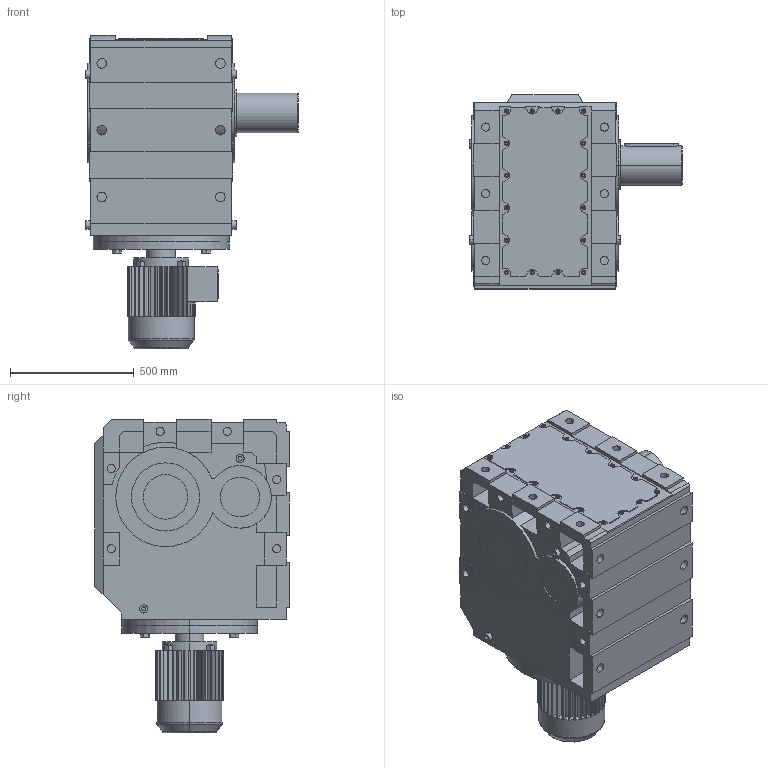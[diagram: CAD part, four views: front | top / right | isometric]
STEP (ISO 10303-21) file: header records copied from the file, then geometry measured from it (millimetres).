
FILE_DESCRIPTION(('Open CASCADE Model'),'2;1');
FILE_NAME('Open CASCADE Shape Model','2021-07-20T12:28:39',('Author'),( 'Open CASCADE'),'Open CASCADE STEP processor 6.3','Open CASCADE 6.3' ,'Unknown');
FILE_SCHEMA(('AUTOMOTIVE_DESIGN_CC2 { 1 2 10303 214 -1 1 5 4 }'));
Length unit declared in the file: millimetre
Products named in the file (4): 1_K167DV160M-A; K167‵187_167.step; 萇儂_550-DV160M-433-545-275-230.step; す瑩妗陑粣K_167.step
Assembly tree (3 placements, depth 2):
  1_K167DV160M-A
    K167‵187_167.step
    萇儂_550-DV160M-433-545-275-230.step
    す瑩妗陑粣K_167.step
Bounding box: 860 x 786 x 1270 mm (x, y, z)
Volume: 373494948.2 mm3; surface area: 5963430.3 mm2
Topology: 3 solids, 3 shells, 917 faces, 2376 edges, 1546 vertices
Faces by surface type: plane 617, cylinder 288, cone 8, torus 4
Entity records: 59552 total; most frequent: CARTESIAN_POINT 14038, DIRECTION 7944, ORIENTED_EDGE 4748, PCURVE 4748, DEFINITIONAL_REPRESENTATION 4748, LINE 4231, VECTOR 4231, EDGE_CURVE 2374
